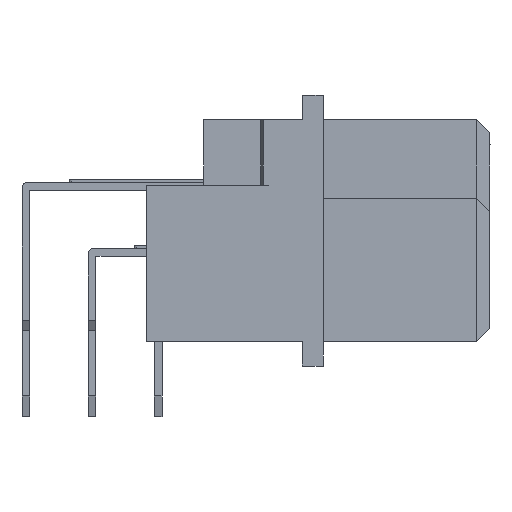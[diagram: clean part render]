
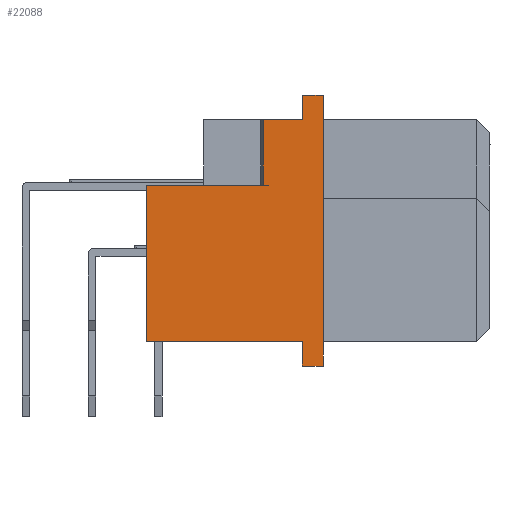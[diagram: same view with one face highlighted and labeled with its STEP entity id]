
A CAD part, left-side view. The second image highlights one B-rep face of the part: STEP entity #22088.
In plain terms, the highlighted planar face has unit normal (-1, 0, 0).
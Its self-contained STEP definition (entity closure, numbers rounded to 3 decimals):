
#257 = AXIS2_PLACEMENT_3D ( 'NONE', #8168, #7979, #7990 ) ;
#409 = VECTOR ( 'NONE', #6625, 1000. ) ;
#3874 = EDGE_LOOP ( 'NONE', ( #29029, #28962, #28959, #28957, #28954, #28951, #29360, #29352, #29344, #29336 ) ) ;
#5186 = VECTOR ( 'NONE', #10583, 1000. ) ;
#6625 = DIRECTION ( 'NONE',  ( 0., 1., 0. ) ) ;
#6626 = CARTESIAN_POINT ( 'NONE',  ( 1487.244, 70.272, -8.5 ) ) ;
#6627 = LINE ( 'NONE', #6626, #409 ) ;
#7979 = DIRECTION ( 'NONE',  ( -1., 0., 0. ) ) ;
#7980 = FACE_OUTER_BOUND ( 'NONE', #3874, .T. ) ;
#7990 = DIRECTION ( 'NONE',  ( 0., 0., 1. ) ) ;
#8168 = CARTESIAN_POINT ( 'NONE',  ( 1487.244, 69.472, -9.45 ) ) ;
#8253 = PLANE ( 'NONE',  #257 ) ;
#10507 = CARTESIAN_POINT ( 'NONE',  ( 1487.244, 69.472, 0.95 ) ) ;
#10565 = LINE ( 'NONE', #10507, #5186 ) ;
#10583 = DIRECTION ( 'NONE',  ( 0., 1., 0. ) ) ;
#11718 = CARTESIAN_POINT ( 'NONE',  ( 1487.244, 69.472, 0.95 ) ) ;
#11719 = CARTESIAN_POINT ( 'NONE',  ( 1487.244, 69.472, -9.45 ) ) ;
#11720 = CARTESIAN_POINT ( 'NONE',  ( 1487.244, 70.272, 0.95 ) ) ;
#11725 = CARTESIAN_POINT ( 'NONE',  ( 1487.244, 70.272, -9.45 ) ) ;
#11749 = CARTESIAN_POINT ( 'NONE',  ( 1487.244, 70.272, -8.5 ) ) ;
#11753 = CARTESIAN_POINT ( 'NONE',  ( 1487.244, 70.272, 0. ) ) ;
#11754 = CARTESIAN_POINT ( 'NONE',  ( 1487.244, 76.272, -8.5 ) ) ;
#11757 = CARTESIAN_POINT ( 'NONE',  ( 1487.244, 76.272, -2.5 ) ) ;
#11760 = CARTESIAN_POINT ( 'NONE',  ( 1487.244, 71.772, 0. ) ) ;
#11761 = CARTESIAN_POINT ( 'NONE',  ( 1487.244, 71.772, -2.5 ) ) ;
#13213 = VECTOR ( 'NONE', #25107, 1000. ) ;
#13287 = VECTOR ( 'NONE', #25658, 1000. ) ;
#13589 = VECTOR ( 'NONE', #25464, 1000. ) ;
#14777 = DIRECTION ( 'NONE',  ( 0., 0., 1. ) ) ;
#14778 = CARTESIAN_POINT ( 'NONE',  ( 1487.244, 76.272, -8.5 ) ) ;
#14780 = LINE ( 'NONE', #14778, #17166 ) ;
#16834 = EDGE_CURVE ( 'NONE', #30928, #30930, #10565, .T. ) ;
#16993 = EDGE_CURVE ( 'NONE', #30932, #30928, #25155, .T. ) ;
#17054 = EDGE_CURVE ( 'NONE', #30932, #30927, #25049, .T. ) ;
#17166 = VECTOR ( 'NONE', #14777, 1000. ) ;
#17218 = VECTOR ( 'NONE', #27839, 1000. ) ;
#17222 = VECTOR ( 'NONE', #28317, 1000. ) ;
#17228 = VECTOR ( 'NONE', #28308, 1000. ) ;
#17235 = VECTOR ( 'NONE', #28296, 1000. ) ;
#17264 = EDGE_CURVE ( 'NONE', #30894, #30883, #25455, .T. ) ;
#21185 = EDGE_CURVE ( 'NONE', #30883, #30881, #28294, .T. ) ;
#21189 = EDGE_CURVE ( 'NONE', #30894, #30930, #28306, .T. ) ;
#21192 = EDGE_CURVE ( 'NONE', #30881, #30880, #28315, .T. ) ;
#21196 = EDGE_CURVE ( 'NONE', #30892, #30927, #28283, .T. ) ;
#21222 = EDGE_CURVE ( 'NONE', #30885, #30880, #14780, .T. ) ;
#22088 = ADVANCED_FACE ( 'NONE', ( #7980 ), #8253, .T. ) ;
#22430 = EDGE_CURVE ( 'NONE', #30892, #30885, #6627, .T. ) ;
#25049 = LINE ( 'NONE', #25116, #13213 ) ;
#25107 = DIRECTION ( 'NONE',  ( 0., 1., 0. ) ) ;
#25116 = CARTESIAN_POINT ( 'NONE',  ( 1487.244, 69.472, -9.45 ) ) ;
#25155 = LINE ( 'NONE', #25376, #13287 ) ;
#25283 = CARTESIAN_POINT ( 'NONE',  ( 1487.244, 69.472, 0. ) ) ;
#25376 = CARTESIAN_POINT ( 'NONE',  ( 1487.244, 69.472, -9.45 ) ) ;
#25455 = LINE ( 'NONE', #25283, #13589 ) ;
#25464 = DIRECTION ( 'NONE',  ( 0., 1., 0. ) ) ;
#25658 = DIRECTION ( 'NONE',  ( 0., 0., 1. ) ) ;
#27455 = CARTESIAN_POINT ( 'NONE',  ( 1487.244, 70.272, -9.45 ) ) ;
#27839 = DIRECTION ( 'NONE',  ( 0., 0., -1. ) ) ;
#28283 = LINE ( 'NONE', #27455, #17218 ) ;
#28294 = LINE ( 'NONE', #28295, #17235 ) ;
#28295 = CARTESIAN_POINT ( 'NONE',  ( 1487.244, 71.772, -2.5 ) ) ;
#28296 = DIRECTION ( 'NONE',  ( 0., 0., -1. ) ) ;
#28306 = LINE ( 'NONE', #28307, #17228 ) ;
#28307 = CARTESIAN_POINT ( 'NONE',  ( 1487.244, 70.272, 0. ) ) ;
#28308 = DIRECTION ( 'NONE',  ( 0., 0., 1. ) ) ;
#28315 = LINE ( 'NONE', #28316, #17222 ) ;
#28316 = CARTESIAN_POINT ( 'NONE',  ( 1487.244, 70.397, -2.5 ) ) ;
#28317 = DIRECTION ( 'NONE',  ( 0., 1., 0. ) ) ;
#28951 = ORIENTED_EDGE ( 'NONE', *, *, #21192, .T. ) ;
#28954 = ORIENTED_EDGE ( 'NONE', *, *, #21185, .T. ) ;
#28957 = ORIENTED_EDGE ( 'NONE', *, *, #17264, .T. ) ;
#28959 = ORIENTED_EDGE ( 'NONE', *, *, #21189, .F. ) ;
#28962 = ORIENTED_EDGE ( 'NONE', *, *, #16834, .T. ) ;
#29029 = ORIENTED_EDGE ( 'NONE', *, *, #16993, .T. ) ;
#29336 = ORIENTED_EDGE ( 'NONE', *, *, #17054, .F. ) ;
#29344 = ORIENTED_EDGE ( 'NONE', *, *, #21196, .T. ) ;
#29352 = ORIENTED_EDGE ( 'NONE', *, *, #22430, .F. ) ;
#29360 = ORIENTED_EDGE ( 'NONE', *, *, #21222, .F. ) ;
#30880 = VERTEX_POINT ( 'NONE', #11757 ) ;
#30881 = VERTEX_POINT ( 'NONE', #11761 ) ;
#30883 = VERTEX_POINT ( 'NONE', #11760 ) ;
#30885 = VERTEX_POINT ( 'NONE', #11754 ) ;
#30892 = VERTEX_POINT ( 'NONE', #11749 ) ;
#30894 = VERTEX_POINT ( 'NONE', #11753 ) ;
#30927 = VERTEX_POINT ( 'NONE', #11725 ) ;
#30928 = VERTEX_POINT ( 'NONE', #11718 ) ;
#30930 = VERTEX_POINT ( 'NONE', #11720 ) ;
#30932 = VERTEX_POINT ( 'NONE', #11719 ) ;
